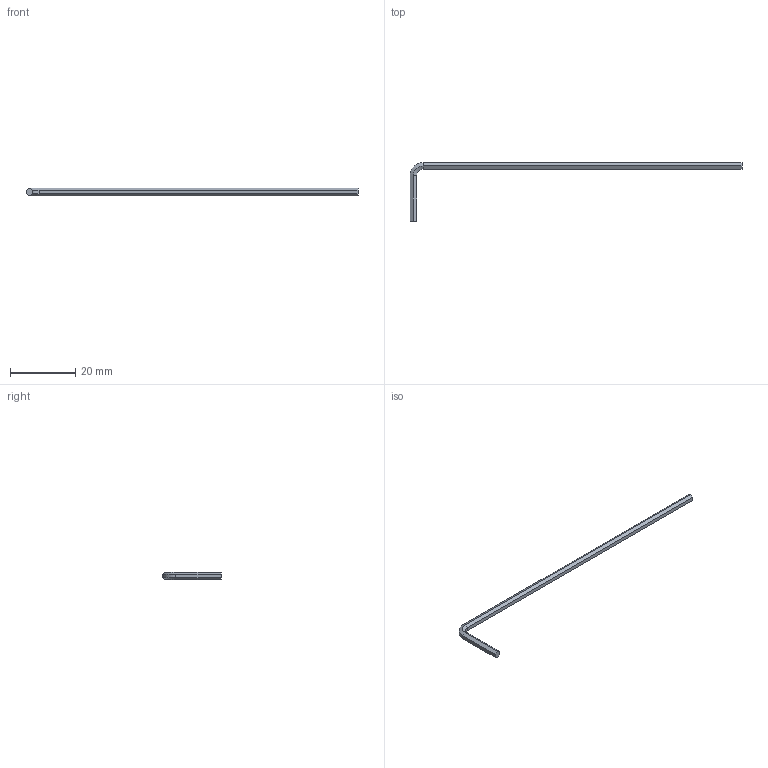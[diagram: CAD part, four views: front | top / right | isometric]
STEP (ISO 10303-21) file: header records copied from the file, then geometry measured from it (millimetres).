
FILE_DESCRIPTION(/* description */ (''),/* implementation_level */ '2;1');
FILE_NAME(/* name */ 'C:\Users\D\Documents\Inventor\各種小物\JIS\02-分解工具\六角棒スパナ2\hk-2-L.stp',/* time_stamp */ '2022-04-21T13:53:52+09:00',/* author */ ('D'),/* organization */ (''),/* preprocessor_version */ 'ST-DEVELOPER v18',/* originating_system */ 'Autodesk Inventor 2020',/* authorisation */ '');
FILE_SCHEMA (('AUTOMOTIVE_DESIGN { 1 0 10303 214 3 1 1 }'));
Length unit declared in the file: millimetre
Products named in the file (1): hk-0.7
Bounding box: 102 x 18 x 2.31 mm (x, y, z)
Volume: 404.3 mm3; surface area: 815.5 mm2
Topology: 1 solids, 1 shells, 20 faces, 42 edges, 24 vertices
Faces by surface type: plane 14, cone 4, cylinder 2
Entity records: 557 total; most frequent: DIRECTION 90, CARTESIAN_POINT 87, ORIENTED_EDGE 84, EDGE_CURVE 42, LINE 36, VECTOR 36, AXIS2_PLACEMENT_3D 27, VERTEX_POINT 24
